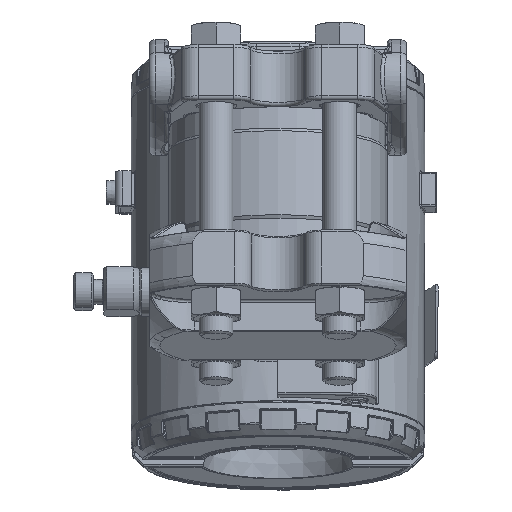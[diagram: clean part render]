
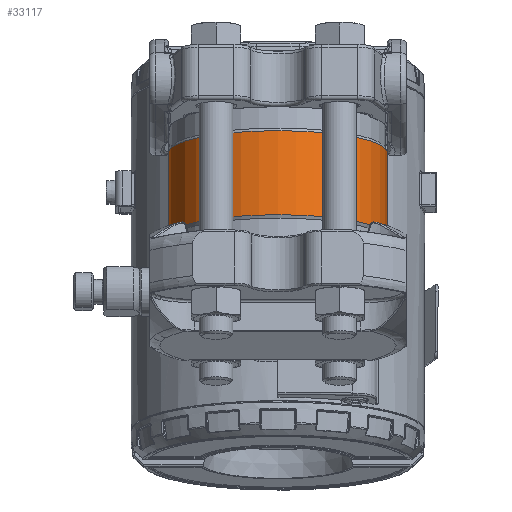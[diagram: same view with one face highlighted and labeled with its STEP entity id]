
A CAD part, left-side view. The second image highlights one B-rep face of the part: STEP entity #33117.
In plain terms, the highlighted cylindrical face has radius 31 mm (diameter 62 mm), a partial arc.
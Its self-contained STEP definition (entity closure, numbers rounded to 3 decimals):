
#1586=CYLINDRICAL_SURFACE('',#35833,31.);
#2526=FACE_OUTER_BOUND('',#4755,.T.);
#4755=EDGE_LOOP('',(#22066,#22067,#22068,#22069,#22070,#22071,#22072,#22073,
#22074,#22075));
#7090=LINE('',#50698,#8332);
#7091=LINE('',#50712,#8333);
#8332=VECTOR('',#40359,10.);
#8333=VECTOR('',#40360,10.);
#9571=CIRCLE('',#35813,31.);
#9574=CIRCLE('',#35816,31.);
#9580=CIRCLE('',#35826,31.);
#9581=CIRCLE('',#35827,31.);
#12243=B_SPLINE_CURVE_WITH_KNOTS('',3,(#50673,#50674,#50675,#50676,#50677,
#50678),.UNSPECIFIED.,.F.,.F.,(4,1,1,4),(0.383,0.548,
0.913,1.279),.UNSPECIFIED.);
#12245=B_SPLINE_CURVE_WITH_KNOTS('',3,(#50691,#50692,#50693,#50694,#50695,
#50696),.UNSPECIFIED.,.F.,.F.,(4,1,1,4),(0.,0.274,0.548,
0.896),.UNSPECIFIED.);
#12246=B_SPLINE_CURVE_WITH_KNOTS('',3,(#50699,#50700,#50701,#50702,#50703,
#50704),.UNSPECIFIED.,.F.,.F.,(4,1,1,4),(0.383,0.548,
0.913,1.279),.UNSPECIFIED.);
#12247=B_SPLINE_CURVE_WITH_KNOTS('',3,(#50706,#50707,#50708,#50709,#50710,
#50711),.UNSPECIFIED.,.F.,.F.,(4,1,1,4),(0.,0.274,
0.548,0.895),.UNSPECIFIED.);
#13495=VERTEX_POINT('',#50540);
#13497=VERTEX_POINT('',#50553);
#13498=VERTEX_POINT('',#50566);
#13510=VERTEX_POINT('',#50609);
#13511=VERTEX_POINT('',#50611);
#13512=VERTEX_POINT('',#50623);
#13514=VERTEX_POINT('',#50672);
#13517=VERTEX_POINT('',#50690);
#13518=VERTEX_POINT('',#50697);
#13519=VERTEX_POINT('',#50705);
#16698=EDGE_CURVE('',#13498,#13497,#9571,.T.);
#16702=EDGE_CURVE('',#13495,#13498,#9574,.T.);
#16714=EDGE_CURVE('',#13511,#13510,#9580,.T.);
#16717=EDGE_CURVE('',#13510,#13512,#9581,.T.);
#16721=EDGE_CURVE('',#13495,#13514,#12243,.T.);
#16725=EDGE_CURVE('',#13517,#13497,#12245,.T.);
#16726=EDGE_CURVE('',#13518,#13517,#7090,.T.);
#16727=EDGE_CURVE('',#13511,#13518,#12246,.T.);
#16728=EDGE_CURVE('',#13519,#13512,#12247,.T.);
#16729=EDGE_CURVE('',#13514,#13519,#7091,.T.);
#22066=ORIENTED_EDGE('',*,*,#16702,.T.);
#22067=ORIENTED_EDGE('',*,*,#16698,.T.);
#22068=ORIENTED_EDGE('',*,*,#16725,.F.);
#22069=ORIENTED_EDGE('',*,*,#16726,.F.);
#22070=ORIENTED_EDGE('',*,*,#16727,.F.);
#22071=ORIENTED_EDGE('',*,*,#16714,.T.);
#22072=ORIENTED_EDGE('',*,*,#16717,.T.);
#22073=ORIENTED_EDGE('',*,*,#16728,.F.);
#22074=ORIENTED_EDGE('',*,*,#16729,.F.);
#22075=ORIENTED_EDGE('',*,*,#16721,.F.);
#33117=ADVANCED_FACE('',(#2526),#1586,.T.);
#35813=AXIS2_PLACEMENT_3D('',#50567,#40313,#40314);
#35816=AXIS2_PLACEMENT_3D('',#50573,#40320,#40321);
#35826=AXIS2_PLACEMENT_3D('',#50612,#40342,#40343);
#35827=AXIS2_PLACEMENT_3D('',#50636,#40344,#40345);
#35833=AXIS2_PLACEMENT_3D('',#50689,#40357,#40358);
#40313=DIRECTION('center_axis',(0.,0.,1.));
#40314=DIRECTION('ref_axis',(-1.,0.,0.));
#40320=DIRECTION('center_axis',(0.,0.,1.));
#40321=DIRECTION('ref_axis',(-1.,0.,0.));
#40342=DIRECTION('center_axis',(0.,0.,-1.));
#40343=DIRECTION('ref_axis',(-1.,0.,0.));
#40344=DIRECTION('center_axis',(0.,0.,-1.));
#40345=DIRECTION('ref_axis',(-1.,0.,0.));
#40357=DIRECTION('center_axis',(0.,0.,1.));
#40358=DIRECTION('ref_axis',(-1.,0.,0.));
#40359=DIRECTION('',(0.,0.,-1.));
#40360=DIRECTION('',(0.,0.,1.));
#50540=CARTESIAN_POINT('',(29.987,7.86,-12.134));
#50553=CARTESIAN_POINT('',(29.987,-7.86,-12.134));
#50566=CARTESIAN_POINT('',(-31.,0.,-12.134));
#50567=CARTESIAN_POINT('Origin',(0.,0.,-12.134));
#50573=CARTESIAN_POINT('Origin',(0.,0.,-12.134));
#50609=CARTESIAN_POINT('',(-31.,0.,12.134));
#50611=CARTESIAN_POINT('',(29.987,-7.86,12.134));
#50612=CARTESIAN_POINT('Origin',(0.,0.,12.134));
#50623=CARTESIAN_POINT('',(29.987,7.86,12.134));
#50636=CARTESIAN_POINT('Origin',(0.,0.,12.134));
#50672=CARTESIAN_POINT('',(28.645,11.853,-5.));
#50673=CARTESIAN_POINT('Ctrl Pts',(29.985,7.857,-12.131));
#50674=CARTESIAN_POINT('Ctrl Pts',(29.871,8.293,-11.889));
#50675=CARTESIAN_POINT('Ctrl Pts',(29.495,9.621,-10.961));
#50676=CARTESIAN_POINT('Ctrl Pts',(28.867,11.328,-8.643));
#50677=CARTESIAN_POINT('Ctrl Pts',(28.645,11.853,-6.218));
#50678=CARTESIAN_POINT('Ctrl Pts',(28.645,11.853,-5.));
#50689=CARTESIAN_POINT('Origin',(0.,0.,0.));
#50690=CARTESIAN_POINT('',(28.645,-11.853,-5.));
#50691=CARTESIAN_POINT('Ctrl Pts',(28.645,-11.853,-5.));
#50692=CARTESIAN_POINT('Ctrl Pts',(28.645,-11.853,-5.913));
#50693=CARTESIAN_POINT('Ctrl Pts',(28.767,-11.563,-7.738));
#50694=CARTESIAN_POINT('Ctrl Pts',(29.282,-10.232,-10.332));
#50695=CARTESIAN_POINT('Ctrl Pts',(29.747,-8.777,-11.623));
#50696=CARTESIAN_POINT('Ctrl Pts',(29.987,-7.86,-12.134));
#50697=CARTESIAN_POINT('',(28.645,-11.853,5.));
#50698=CARTESIAN_POINT('',(28.645,-11.853,0.));
#50699=CARTESIAN_POINT('Ctrl Pts',(29.985,-7.857,12.131));
#50700=CARTESIAN_POINT('Ctrl Pts',(29.871,-8.293,11.889));
#50701=CARTESIAN_POINT('Ctrl Pts',(29.495,-9.621,10.961));
#50702=CARTESIAN_POINT('Ctrl Pts',(28.867,-11.328,8.643));
#50703=CARTESIAN_POINT('Ctrl Pts',(28.645,-11.853,6.218));
#50704=CARTESIAN_POINT('Ctrl Pts',(28.645,-11.853,5.));
#50705=CARTESIAN_POINT('',(28.645,11.853,5.));
#50706=CARTESIAN_POINT('Ctrl Pts',(28.645,11.853,5.));
#50707=CARTESIAN_POINT('Ctrl Pts',(28.645,11.853,5.913));
#50708=CARTESIAN_POINT('Ctrl Pts',(28.767,11.563,7.738));
#50709=CARTESIAN_POINT('Ctrl Pts',(29.282,10.232,10.332));
#50710=CARTESIAN_POINT('Ctrl Pts',(29.747,8.777,11.623));
#50711=CARTESIAN_POINT('Ctrl Pts',(29.987,7.86,12.134));
#50712=CARTESIAN_POINT('',(28.645,11.853,0.));
